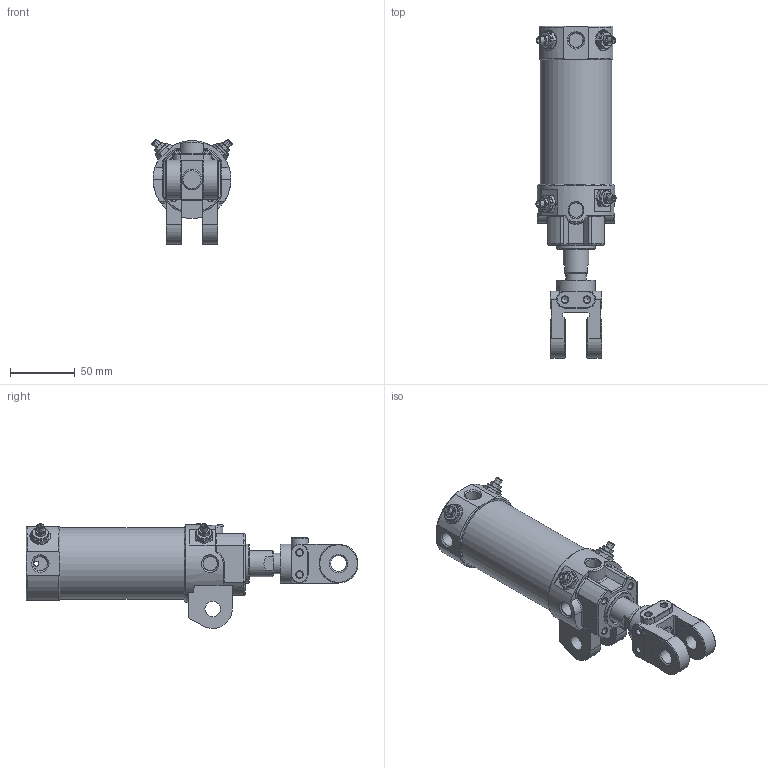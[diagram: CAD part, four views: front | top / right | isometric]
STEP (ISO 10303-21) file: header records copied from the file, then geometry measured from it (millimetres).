
FILE_DESCRIPTION((''),'2;1');
FILE_NAME('I:\3D電子目錄\氣缸\DCK\DCK\DCK-1A-50x50-Y.stp','2008-02-26T14:34:54',('Administrator'),(''),'Autodesk Inventor 11','Autodesk Inventor 11','');
FILE_SCHEMA(('AUTOMOTIVE_DESIGN { 1 0 10303 214 1 1 1 1 }'));
Length unit declared in the file: millimetre
Products named in the file (6): DCK-1A-50-Y; 緩衝針; 緩衝針-1; 緩衝針-201; 緩衝針-3
Assembly tree (8 placements, depth 3):
  DCK-1A-50-Y
    DCK-1A-50-Y
    緩衝針  x4
      緩衝針-1
      緩衝針-201
      緩衝針-3
Bounding box: 61.76 x 256 x 80.87 mm (x, y, z)
Volume: 271955.9 mm3; surface area: 104001.9 mm2
Topology: 15 solids, 15 shells, 649 faces, 1461 edges, 910 vertices
Faces by surface type: plane 240, cylinder 188, cone 145, bspline 40, torus 36
Full cylindrical faces by diameter (mm): 2 x2, 3 x4, 3.8 x2, 4 x6, 4.6 x4, 4.917 x2, 5 x8, 5.1 x4, 5.2 x12, 5.5 x4, 7.25 x1, 7.9 x4, 8 x2, 10.3 x1, 11.3 x1, 12 x6, 12.8 x4, 16 x3, 20 x1, 21 x1, 22 x2, 23 x1, 24.7 x1, 26 x1, 27 x1, 28 x1, 29 x1, 30 x4, 33 x1, 49.5 x1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
Entity records: 14035 total; most frequent: CARTESIAN_POINT 5596, DIRECTION 1733, ORIENTED_EDGE 1524, EDGE_CURVE 762, AXIS2_PLACEMENT_3D 745, EDGE_LOOP 614, VERTEX_POINT 550, FACE_OUTER_BOUND 400
